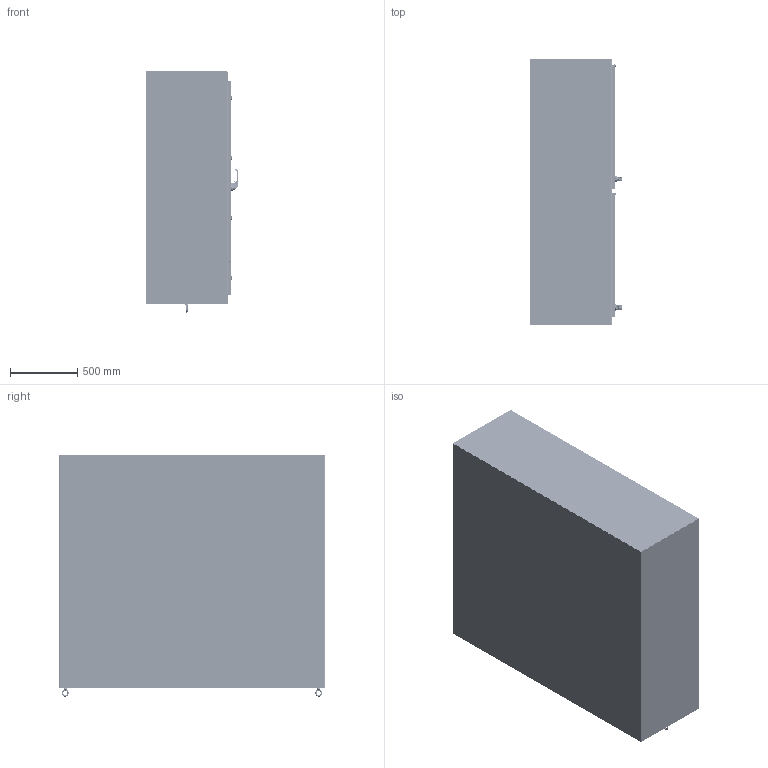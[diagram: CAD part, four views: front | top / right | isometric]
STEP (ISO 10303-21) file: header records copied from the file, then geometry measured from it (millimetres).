
FILE_DESCRIPTION((''),'2;1');
FILE_NAME('MODEL-462_ASM','2026-04-28T09:09:46',('andrew.knowlton'),('SAGINAW CONTROL & ENGINEERING'),'CREO PARAMETRIC BY PTC INC, 2021284','CREO PARAMETRIC BY PTC INC, 2021284','');
FILE_SCHEMA(('AUTOMOTIVE_DESIGN { 1 0 10303 214 1 1 1 1 }'));
Length unit declared in the file: inch
Products named in the file (123): MODEL-462-L-SD; MODEL-462-TP; MODEL-462-R-SD; MODEL-462-BTM; MODEL-462-RH-DR; 100837; 111267; 100882; 100953_SCREW_MTG; 100953_PADLOCK_CATCH; 100953_SCREW_LARGE; 100953_INSERT_SHAFT; 100953_INSERT_PCH; 100953_GASKET; 100953_O-RING; 100953_BASE; 100953_SPRING; 100953_HANDLE; 100953_CAM_SHAFT; 100953_HANDLE_ASM; 100953_CAM_ADAPTER; 100953_EARTH_NUT; 100953_FLANGE_NUT; 100953_CAM_NUT; 100953_CP_INSERT; 100953_SPRING_CAM; 100953_TORSION_SPRING; 100953_SCREW_INSERT; 100953_ASM; 102237; 100030; 102237_ASM; MODEL-462-ROD-RH-UPR; 128146; 128145; 128144; 102482; MODEL-462-ROD-RH-UPR_ASM; 128143; 112504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
Assembly tree (259 placements, depth 5):
  MODEL-462_ASM
    MODEL-462-L-SD
    MODEL-462-TP
    MODEL-462-R-SD
    MODEL-462-BTM
    MODEL-462-RH-DOOR-ASSY_ASM
      MODEL-462-RH-DR
      100837  x7
      111267
      100882  x12
      100953_ASM
        100953_SCREW_MTG
        100953_PADLOCK_CATCH
        100953_SCREW_LARGE  x2
        100953_INSERT_SHAFT
        100953_INSERT_PCH
        100953_GASKET
        100953_O-RING
        100953_BASE
        100953_SPRING
        100953_HANDLE_ASM
          100953_HANDLE
          100953_CAM_SHAFT
        100953_CAM_ADAPTER
        100953_EARTH_NUT
        100953_FLANGE_NUT
        100953_CAM_NUT
        100953_CP_INSERT
        100953_SPRING_CAM
        100953_TORSION_SPRING
        100953_SCREW_INSERT
      102237_ASM
        102237
        100030  x2
      MODEL-462-ROD-RH-UPR_ASM
        MODEL-462-ROD-RH-UPR
        128146
        128145
        128144
        102482  x2
      128143  x2
      112504  x2
      MODEL-462-ROD-RH-LWR_ASM
        MODEL-462-ROD-RH-LWR
        128146
        128145
        128144
        102482  x2
      MODEL-462-PR-GSKT-RH
      128258_ASM  x4
        128258
      126395  x4
      102483  x4
      101383_ASM  x4
        101383
        101383-STUD
      101221  x4
      125597
    MODEL-462-LH-DOOR-ASSY_ASM
      MODEL-462-LH-DR
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Bounding box: 687.67 x 1974.85 x 1788.36 mm (x, y, z)
Volume: 44803077.4 mm3; surface area: 32354472.5 mm2
Topology: 285 solids, 285 shells, 26901 faces, 68052 edges, 41764 vertices
Faces by surface type: plane 9118, cylinder 7080, bspline 5941, torus 2174, cone 1379, sphere 828, extrusion 381
Entity records: 823807 total; most frequent: CARTESIAN_POINT 373444, ORIENTED_EDGE 69616, DIRECTION 63455, PRESENTATION_STYLE_ASSIGNMENT 35618, STYLED_ITEM 35582, CURVE_STYLE 34808, EDGE_CURVE 34808, AXIS2_PLACEMENT_3D 23522
